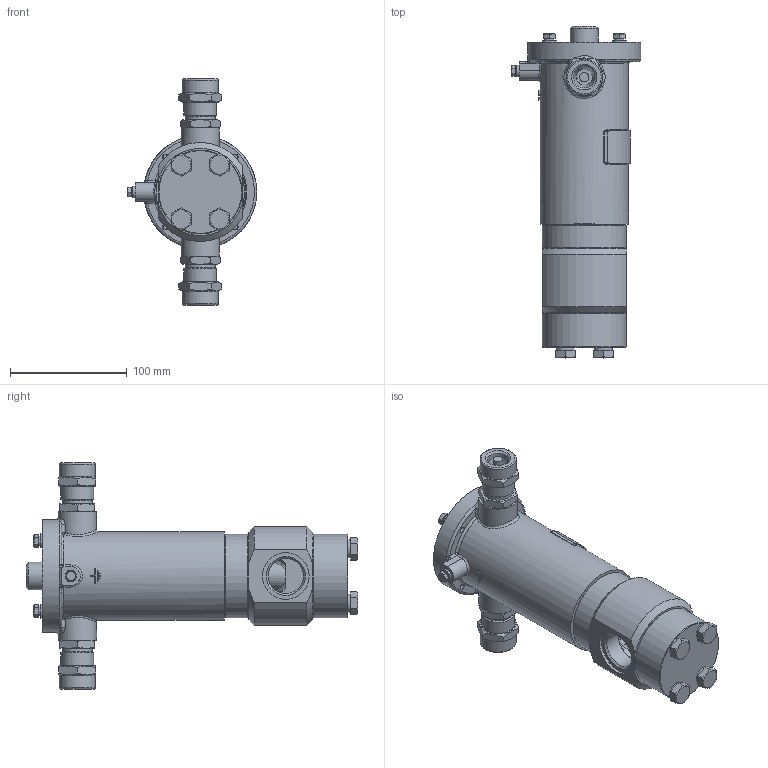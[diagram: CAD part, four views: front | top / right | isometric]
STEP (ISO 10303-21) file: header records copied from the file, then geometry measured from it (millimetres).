
FILE_DESCRIPTION(('STEP AP203'), '1');
FILE_NAME('ÑÅÍÑ-ÏÐ DN20PN250-ÍÎ-ÑÂ-G1-0.stp', '2018-10-01T10:05:26', ('Îðëîâ Å.Â.'), ('ÎÎÎ ÍÏÏ Ñåíñîð'), 'ASCON STEP Converter 1.3', 'Kompas 3D', '');
FILE_SCHEMA(('CONFIG_CONTROL_DESIGN','SUPPORT_RESOURCE_SCHEMA'));
Length unit declared in the file: millimetre
Products named in the file (1): 7
Bounding box: 111.2 x 284.9 x 194 mm (x, y, z)
Volume: 785628 mm3; surface area: 220379.1 mm2
Topology: 3 solids, 21 shells, 1775 faces, 4745 edges, 3101 vertices
Faces by surface type: cylinder 927, plane 662, cone 121, bspline 27, torus 22, extrusion 16
Full cylindrical faces by diameter (mm): 3.3 x2, 3.5 x2, 4.134 x1, 4.917 x4, 5 x1, 6 x7, 6.1 x1, 6.5 x4, 8 x4, 8.376 x4, 9 x1, 10 x5, 11 x4, 12 x4, 13 x2, 18.632 x2, 20 x4, 22 x2, 22.376 x2, 23.5 x2, 24 x3, 24.5 x2, 26 x4, 26.376 x2, 28 x2, 30 x1, 30.291 x2, 31 x2, 33 x2, 34 x1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
Entity records: 66193 total; most frequent: CARTESIAN_POINT 20654, DIRECTION 9914, ORIENTED_EDGE 9462, EDGE_CURVE 4731, AXIS2_PLACEMENT_3D 3794, VERTEX_POINT 3101, VECTOR 2326, LINE 2310
